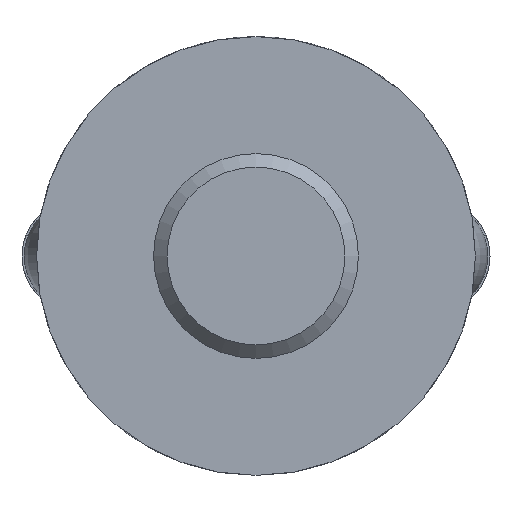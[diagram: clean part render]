
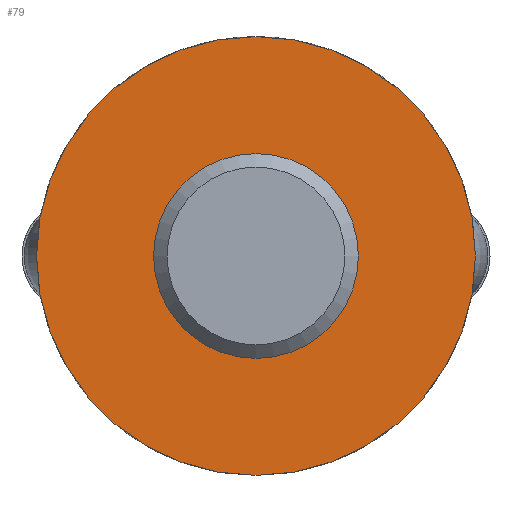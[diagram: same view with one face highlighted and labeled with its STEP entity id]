
A CAD part, front view. The second image highlights one B-rep face of the part: STEP entity #79.
In plain terms, the highlighted planar face has unit normal (0, -1, 0).
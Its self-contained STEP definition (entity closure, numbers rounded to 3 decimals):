
#79 = ADVANCED_FACE( '', ( #115, #116 ), #117, .F. );
#115 = FACE_BOUND( '', #186, .T. );
#116 = FACE_OUTER_BOUND( '', #187, .T. );
#117 = PLANE( '', #188 );
#186 = EDGE_LOOP( '', ( #276 ) );
#187 = EDGE_LOOP( '', ( #277 ) );
#188 = AXIS2_PLACEMENT_3D( '', #278, #279, #280 );
#276 = ORIENTED_EDGE( '', *, *, #464, .T. );
#277 = ORIENTED_EDGE( '', *, *, #465, .T. );
#278 = CARTESIAN_POINT( '', ( 45., 0., 0. ) );
#279 = DIRECTION( '', ( 0., 1., 0. ) );
#280 = DIRECTION( '', ( 0., 0., 1. ) );
#464 = EDGE_CURVE( '', #539, #539, #540, .T. );
#465 = EDGE_CURVE( '', #541, #541, #542, .T. );
#539 = VERTEX_POINT( '', #825 );
#540 = CIRCLE( '', #826, 21. );
#541 = VERTEX_POINT( '', #827 );
#542 = CIRCLE( '', #828, 45. );
#825 = CARTESIAN_POINT( '', ( 0., 0., 21. ) );
#826 = AXIS2_PLACEMENT_3D( '', #1147, #1148, #1149 );
#827 = CARTESIAN_POINT( '', ( 0., 0., -45. ) );
#828 = AXIS2_PLACEMENT_3D( '', #1150, #1151, #1152 );
#1147 = CARTESIAN_POINT( '', ( 0., 0., 0. ) );
#1148 = DIRECTION( '', ( 0., 1., 0. ) );
#1149 = DIRECTION( '', ( 0., 0., 1. ) );
#1150 = CARTESIAN_POINT( '', ( 0., 0., 0. ) );
#1151 = DIRECTION( '', ( 0., -1., 0. ) );
#1152 = DIRECTION( '', ( 0., 0., -1. ) );
